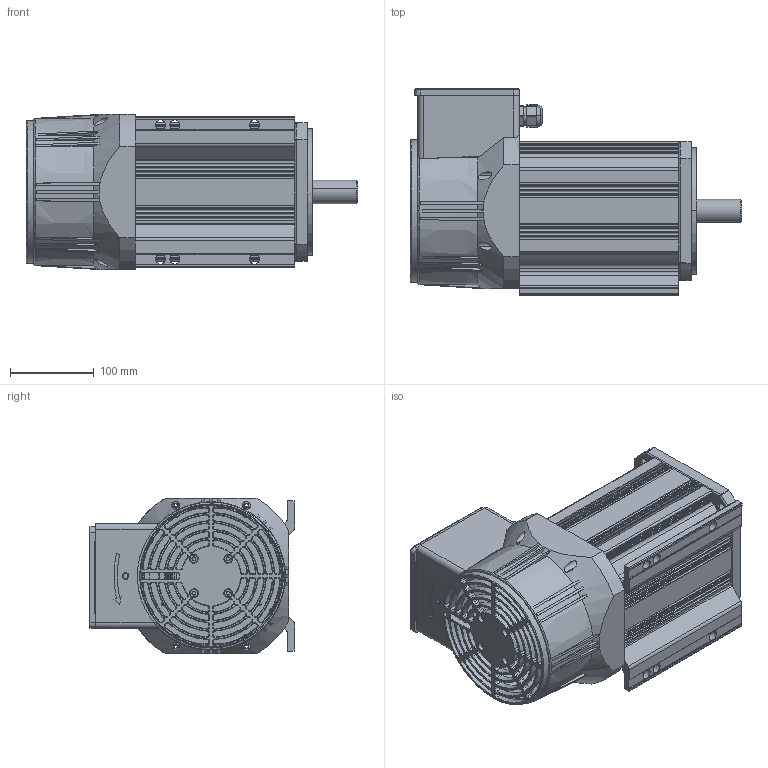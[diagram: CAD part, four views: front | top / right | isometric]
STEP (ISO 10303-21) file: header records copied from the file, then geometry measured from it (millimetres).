
FILE_DESCRIPTION (( 'STEP AP203' ), '1' );
FILE_NAME ('165M-B35-28J俋倛芞.STEP', '2021-05-25T09:10:32', ( '' ), ( '' ), 'SwSTEP 2.0', 'SolidWorks 2016', '' );
FILE_SCHEMA (( 'CONFIG_CONTROL_DESIGN' ));
Length unit declared in the file: millimetre
Products named in the file (11): 12珨极瑞欶; 165M-B35-28J俋倛芞; 165-HG-001_-E-6306; 綴裔瑞欶郪璃; 165M儂褲B3; M24X1.5蹟杶; M20X1.5蹟杶; 諉盄碟裔; 180515-ヶ裔; ヶ裔蛌粣郪璃; 165-Z-28J
Assembly tree (10 placements, depth 3):
  165M-B35-28J俋倛芞
    165M儂褲B3
    ヶ裔蛌粣郪璃
      180515-ヶ裔
      165-Z-28J
    綴裔瑞欶郪璃
      165-HG-001_-E-6306
      12珨极瑞欶
      諉盄碟裔
      M20X1.5蹟杶
      M24X1.5蹟杶
Bounding box: 395 x 245.5 x 185.01 mm (x, y, z)
Volume: 1660878 mm3; surface area: 834453.9 mm2
Topology: 7 solids, 12 shells, 2976 faces, 7791 edges, 4761 vertices
Faces by surface type: plane 806, bspline 783, cylinder 765, cone 535, sphere 50, torus 37
Entity records: 115333 total; most frequent: CARTESIAN_POINT 46010, ORIENTED_EDGE 15251, DIRECTION 13304, EDGE_CURVE 7629, AXIS2_PLACEMENT_3D 5131, VERTEX_POINT 4761, EDGE_LOOP 3287, LINE 3042
